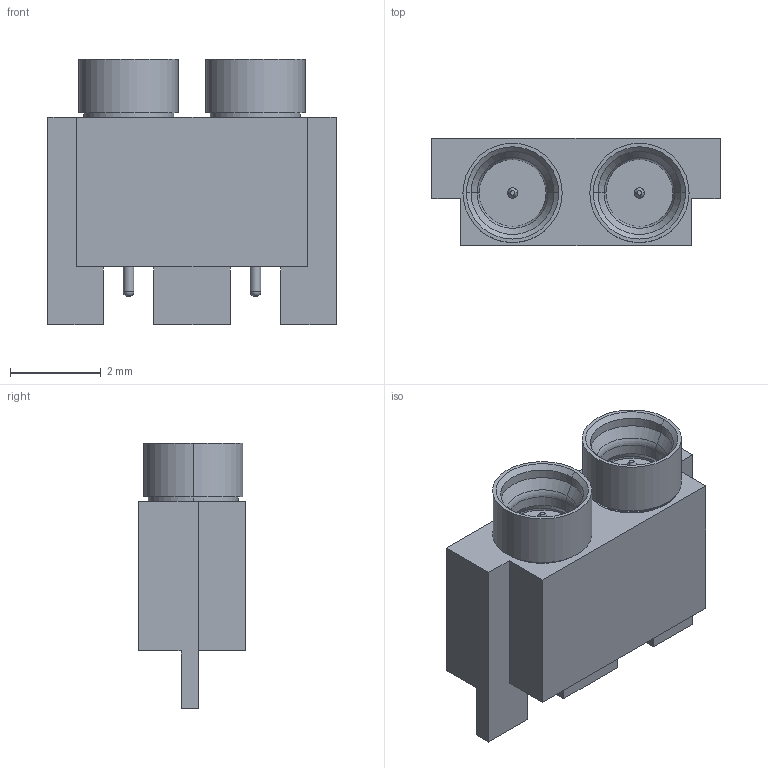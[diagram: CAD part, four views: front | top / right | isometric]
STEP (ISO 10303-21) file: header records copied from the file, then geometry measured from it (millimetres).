
FILE_DESCRIPTION (( 'STEP AP214' ), '1' );
FILE_NAME ('3811-60049.STEP', '2018-09-21T13:21:22', ( '' ), ( '' ), 'SwSTEP 2.0', 'SolidWorks 2016', '' );
FILE_SCHEMA (( 'AUTOMOTIVE_DESIGN' ));
Length unit declared in the file: inch
Products named in the file (1): 3811-60049
Bounding box: 6.35 x 2.36 x 5.84 mm (x, y, z)
Volume: 51.8 mm3; surface area: 137.1 mm2
Topology: 1 solids, 1 shells, 94 faces, 206 edges, 126 vertices
Faces by surface type: cylinder 34, plane 33, cone 19, torus 8
Entity records: 3785 total; most frequent: DIRECTION 488, CARTESIAN_POINT 448, ORIENTED_EDGE 412, EDGE_CURVE 206, AXIS2_PLACEMENT_3D 190, VERTEX_POINT 126, LINE 108, VECTOR 108
